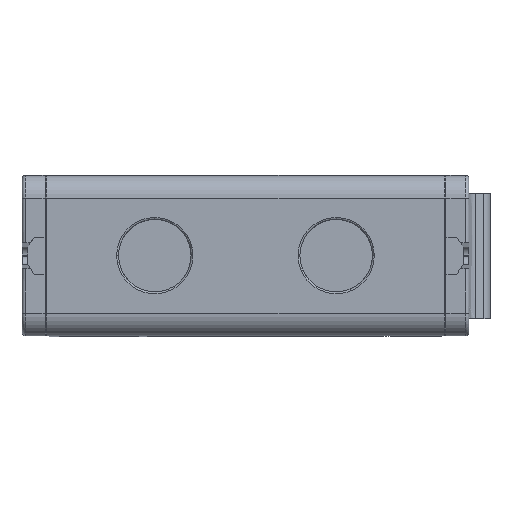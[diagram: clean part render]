
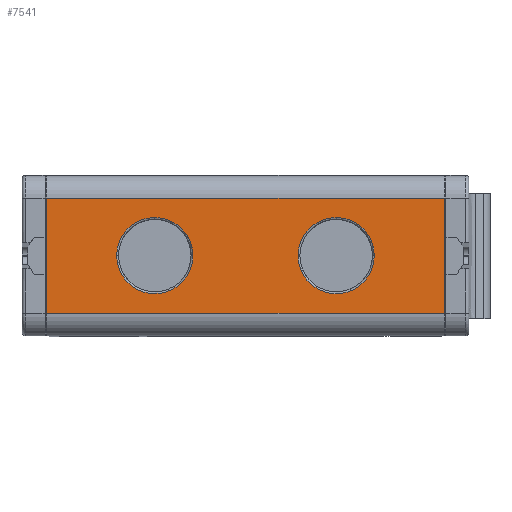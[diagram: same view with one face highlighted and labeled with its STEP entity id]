
A CAD part, top view. The second image highlights one B-rep face of the part: STEP entity #7541.
In plain terms, the highlighted planar face has unit normal (0, 0, 1).
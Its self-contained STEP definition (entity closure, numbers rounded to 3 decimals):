
#5710=DIRECTION('',(0.,1.,0.));
#5711=VECTOR('',#5710,12.7);
#5712=CARTESIAN_POINT('',(21.9,-6.35,4.));
#5713=LINE('',#5712,#5711);
#5733=DIRECTION('',(1.,0.,0.));
#5734=VECTOR('',#5733,43.8);
#5735=CARTESIAN_POINT('',(-21.9,-6.35,4.));
#5736=LINE('',#5735,#5734);
#5771=DIRECTION('',(-1.,0.,0.));
#5772=VECTOR('',#5771,43.8);
#5773=CARTESIAN_POINT('',(21.9,6.35,4.));
#5774=LINE('',#5773,#5772);
#5779=CARTESIAN_POINT('',(-10.,0.,4.));
#5780=DIRECTION('',(0.,0.,1.));
#5781=DIRECTION('',(-1.,0.,0.));
#5782=AXIS2_PLACEMENT_3D('',#5779,#5780,#5781);
#5784=CARTESIAN_POINT('',(-10.,0.,4.));
#5785=DIRECTION('',(0.,0.,1.));
#5786=DIRECTION('',(1.,0.,0.));
#5787=AXIS2_PLACEMENT_3D('',#5784,#5785,#5786);
#5789=CARTESIAN_POINT('',(10.,0.,4.));
#5790=DIRECTION('',(0.,0.,1.));
#5791=DIRECTION('',(-1.,0.,0.));
#5792=AXIS2_PLACEMENT_3D('',#5789,#5790,#5791);
#5794=CARTESIAN_POINT('',(10.,0.,4.));
#5795=DIRECTION('',(0.,0.,1.));
#5796=DIRECTION('',(1.,0.,0.));
#5797=AXIS2_PLACEMENT_3D('',#5794,#5795,#5796);
#5803=DIRECTION('',(0.,-1.,0.));
#5804=VECTOR('',#5803,12.7);
#5805=CARTESIAN_POINT('',(-21.9,6.35,4.));
#5806=LINE('',#5805,#5804);
#6995=CARTESIAN_POINT('',(21.9,6.35,4.));
#6996=VERTEX_POINT('',#6995);
#6997=CARTESIAN_POINT('',(21.9,-6.35,4.));
#6998=VERTEX_POINT('',#6997);
#7001=CARTESIAN_POINT('',(-21.9,-6.35,4.));
#7002=VERTEX_POINT('',#7001);
#7003=CARTESIAN_POINT('',(-21.9,6.35,4.));
#7004=VERTEX_POINT('',#7003);
#7005=CARTESIAN_POINT('',(-14.2,0.,4.));
#7006=CARTESIAN_POINT('',(-5.8,0.,4.));
#7007=VERTEX_POINT('',#7005);
#7008=VERTEX_POINT('',#7006);
#7009=CARTESIAN_POINT('',(5.8,0.,4.));
#7010=CARTESIAN_POINT('',(14.2,0.,4.));
#7011=VERTEX_POINT('',#7009);
#7012=VERTEX_POINT('',#7010);
#7517=CARTESIAN_POINT('',(22.1,6.35,4.));
#7518=DIRECTION('',(0.,0.,1.));
#7519=DIRECTION('',(0.,-1.,0.));
#7520=AXIS2_PLACEMENT_3D('',#7517,#7518,#7519);
#7521=PLANE('',#7520);
#7522=ORIENTED_EDGE('',*,*,#7390,.F.);
#7523=ORIENTED_EDGE('',*,*,#7419,.F.);
#7525=ORIENTED_EDGE('',*,*,#7524,.F.);
#7526=ORIENTED_EDGE('',*,*,#7509,.F.);
#7527=EDGE_LOOP('',(#7522,#7523,#7525,#7526));
#7528=FACE_OUTER_BOUND('',#7527,.F.);
#7530=ORIENTED_EDGE('',*,*,#7529,.T.);
#7532=ORIENTED_EDGE('',*,*,#7531,.T.);
#7533=EDGE_LOOP('',(#7530,#7532));
#7534=FACE_BOUND('',#7533,.F.);
#7536=ORIENTED_EDGE('',*,*,#7535,.T.);
#7538=ORIENTED_EDGE('',*,*,#7537,.T.);
#7539=EDGE_LOOP('',(#7536,#7538));
#7540=FACE_BOUND('',#7539,.F.);
#5783=CIRCLE('',#5782,4.2);
#5788=CIRCLE('',#5787,4.2);
#5793=CIRCLE('',#5792,4.2);
#5798=CIRCLE('',#5797,4.2);
#7390=EDGE_CURVE('',#6998,#6996,#5713,.T.);
#7419=EDGE_CURVE('',#7002,#6998,#5736,.T.);
#7509=EDGE_CURVE('',#6996,#7004,#5774,.T.);
#7524=EDGE_CURVE('',#7004,#7002,#5806,.T.);
#7529=EDGE_CURVE('',#7007,#7008,#5783,.T.);
#7531=EDGE_CURVE('',#7008,#7007,#5788,.T.);
#7535=EDGE_CURVE('',#7011,#7012,#5793,.T.);
#7537=EDGE_CURVE('',#7012,#7011,#5798,.T.);
#7541=ADVANCED_FACE('',(#7528,#7534,#7540),#7521,.T.);
